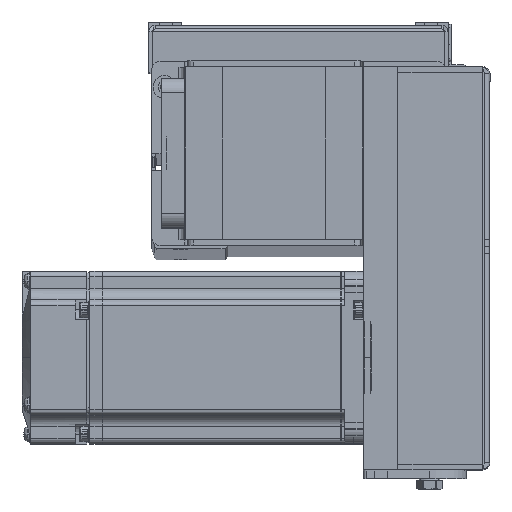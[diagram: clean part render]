
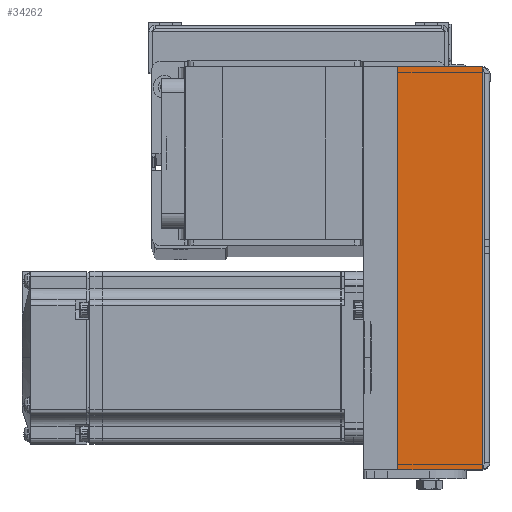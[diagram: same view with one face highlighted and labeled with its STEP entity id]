
A CAD part, top view. The second image highlights one B-rep face of the part: STEP entity #34262.
In plain terms, the highlighted planar face has unit normal (0, 0, 1).
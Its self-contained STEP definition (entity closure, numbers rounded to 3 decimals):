
#474 = EDGE_CURVE ( 'NONE', #7970, #4368, #45207, .T. ) ;
#4368 = VERTEX_POINT ( 'NONE', #46518 ) ;
#4714 = DIRECTION ( 'NONE',  ( 0., 1., 0. ) ) ;
#5605 = CARTESIAN_POINT ( 'NONE',  ( -70., -29.5, 31. ) ) ;
#6913 = VECTOR ( 'NONE', #13238, 1000. ) ;
#7970 = VERTEX_POINT ( 'NONE', #20508 ) ;
#9393 = LINE ( 'NONE', #42632, #15864 ) ;
#10075 = VERTEX_POINT ( 'NONE', #47712 ) ;
#13238 = DIRECTION ( 'NONE',  ( -1., 0., 0. ) ) ;
#13779 = AXIS2_PLACEMENT_3D ( 'NONE', #28943, #36757, #17181 ) ;
#15847 = FACE_OUTER_BOUND ( 'NONE', #21158, .T. ) ;
#15864 = VECTOR ( 'NONE', #38859, 1000. ) ;
#17181 = DIRECTION ( 'NONE',  ( 0., -1., 0. ) ) ;
#19033 = VERTEX_POINT ( 'NONE', #5605 ) ;
#20508 = CARTESIAN_POINT ( 'NONE',  ( 70., -29.5, 31. ) ) ;
#21158 = EDGE_LOOP ( 'NONE', ( #27327, #30795, #22031, #32745 ) ) ;
#22031 = ORIENTED_EDGE ( 'NONE', *, *, #50633, .T. ) ;
#26811 = LINE ( 'NONE', #46233, #6913 ) ;
#27027 = VECTOR ( 'NONE', #47476, 1000. ) ;
#27327 = ORIENTED_EDGE ( 'NONE', *, *, #46424, .F. ) ;
#28943 = CARTESIAN_POINT ( 'NONE',  ( 0., -30., 31. ) ) ;
#30752 = EDGE_CURVE ( 'NONE', #19033, #10075, #31889, .T. ) ;
#30795 = ORIENTED_EDGE ( 'NONE', *, *, #474, .T. ) ;
#31889 = LINE ( 'NONE', #47748, #27027 ) ;
#32745 = ORIENTED_EDGE ( 'NONE', *, *, #30752, .F. ) ;
#34262 = ADVANCED_FACE ( 'NONE', ( #15847 ), #49905, .F. ) ;
#36757 = DIRECTION ( 'NONE',  ( 0., 0., -1. ) ) ;
#38859 = DIRECTION ( 'NONE',  ( -1., 0., 0. ) ) ;
#41429 = CARTESIAN_POINT ( 'NONE',  ( 70., -29.5, 31. ) ) ;
#42632 = CARTESIAN_POINT ( 'NONE',  ( -70., -29.5, 31. ) ) ;
#43833 = VECTOR ( 'NONE', #4714, 1000. ) ;
#45207 = LINE ( 'NONE', #41429, #43833 ) ;
#46233 = CARTESIAN_POINT ( 'NONE',  ( 0., 0., 31. ) ) ;
#46424 = EDGE_CURVE ( 'NONE', #7970, #19033, #9393, .T. ) ;
#46518 = CARTESIAN_POINT ( 'NONE',  ( 70., 0., 31. ) ) ;
#47476 = DIRECTION ( 'NONE',  ( 0., 1., 0. ) ) ;
#47712 = CARTESIAN_POINT ( 'NONE',  ( -70., 0., 31. ) ) ;
#47748 = CARTESIAN_POINT ( 'NONE',  ( -70., -29.5, 31. ) ) ;
#49905 = PLANE ( 'NONE',  #13779 ) ;
#50633 = EDGE_CURVE ( 'NONE', #4368, #10075, #26811, .T. ) ;
